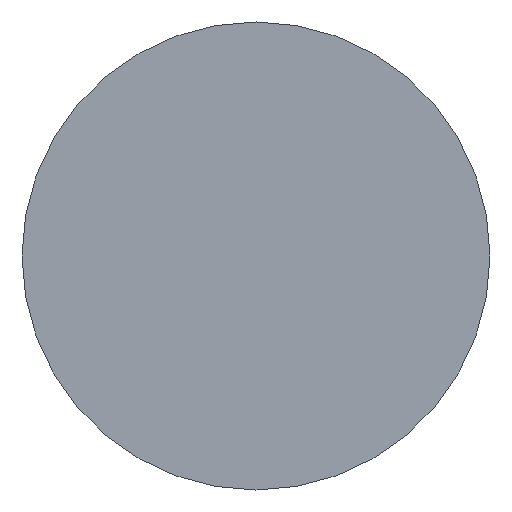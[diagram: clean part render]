
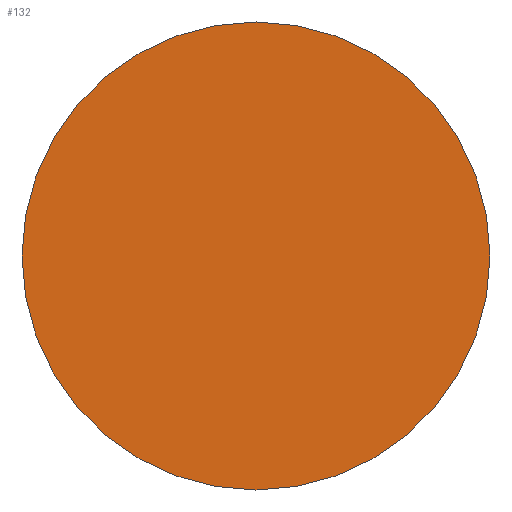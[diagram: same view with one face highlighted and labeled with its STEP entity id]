
A CAD part, left-side view. The second image highlights one B-rep face of the part: STEP entity #132.
In plain terms, the highlighted planar face has unit normal (-1, 0, 0).
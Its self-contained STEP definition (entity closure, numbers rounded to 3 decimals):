
#7 = AXIS2_PLACEMENT_3D ( 'NONE', #125, #123, #122 ) ;
#9 = EDGE_CURVE ( 'NONE', #119, #121, #46, .T. ) ;
#13 = EDGE_CURVE ( 'NONE', #121, #119, #50, .T. ) ;
#17 = AXIS2_PLACEMENT_3D ( 'NONE', #120, #108, #107 ) ;
#19 = AXIS2_PLACEMENT_3D ( 'NONE', #99, #95, #94 ) ;
#31 = FACE_OUTER_BOUND ( 'NONE', #139, .T. ) ;
#34 = ORIENTED_EDGE ( 'NONE', *, *, #13, .T. ) ;
#46 = CIRCLE ( 'NONE', #7, 5.5 ) ;
#50 = CIRCLE ( 'NONE', #17, 5.5 ) ;
#53 = ORIENTED_EDGE ( 'NONE', *, *, #9, .T. ) ;
#94 = DIRECTION ( 'NONE',  ( 0., 0., 1. ) ) ;
#95 = DIRECTION ( 'NONE',  ( -1., 0., 0. ) ) ;
#98 = PLANE ( 'NONE',  #19 ) ;
#99 = CARTESIAN_POINT ( 'NONE',  ( -204.5, 0., 0. ) ) ;
#104 = CARTESIAN_POINT ( 'NONE',  ( -204.5, 0., -5.5 ) ) ;
#106 = CARTESIAN_POINT ( 'NONE',  ( -204.5, 0., 5.5 ) ) ;
#107 = DIRECTION ( 'NONE',  ( 0., 0., 1. ) ) ;
#108 = DIRECTION ( 'NONE',  ( -1., 0., 0. ) ) ;
#119 = VERTEX_POINT ( 'NONE', #106 ) ;
#120 = CARTESIAN_POINT ( 'NONE',  ( -204.5, 0., 0. ) ) ;
#121 = VERTEX_POINT ( 'NONE', #104 ) ;
#122 = DIRECTION ( 'NONE',  ( 0., 0., 1. ) ) ;
#123 = DIRECTION ( 'NONE',  ( -1., 0., 0. ) ) ;
#125 = CARTESIAN_POINT ( 'NONE',  ( -204.5, 0., 0. ) ) ;
#132 = ADVANCED_FACE ( 'NONE', ( #31 ), #98, .T. ) ;
#139 = EDGE_LOOP ( 'NONE', ( #53, #34 ) ) ;
